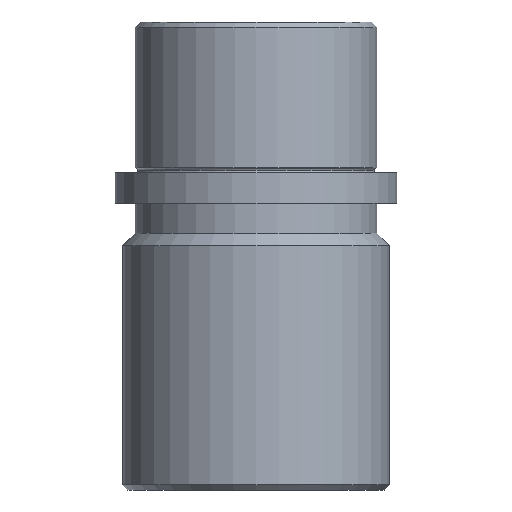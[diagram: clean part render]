
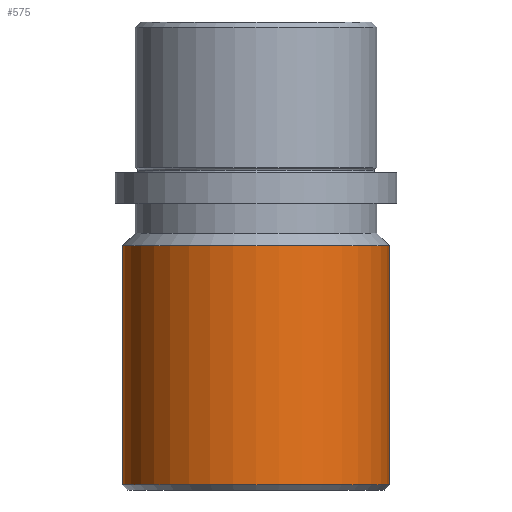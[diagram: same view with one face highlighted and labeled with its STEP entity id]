
A CAD part, front view. The second image highlights one B-rep face of the part: STEP entity #575.
In plain terms, the highlighted cylindrical face has radius 26.5 mm (diameter 53 mm), a partial arc.
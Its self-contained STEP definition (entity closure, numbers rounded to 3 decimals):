
#7 = CARTESIAN_POINT ( 'NONE',  ( -26.5, 0., 0. ) ) ;
#22 = EDGE_LOOP ( 'NONE', ( #551, #409, #929, #713 ) ) ;
#34 = VERTEX_POINT ( 'NONE', #498 ) ;
#69 = CARTESIAN_POINT ( 'NONE',  ( 26.5, 0., -92. ) ) ;
#93 = DIRECTION ( 'NONE',  ( 0., 0., 1. ) ) ;
#102 = CYLINDRICAL_SURFACE ( 'NONE', #114, 26.5 ) ;
#114 = AXIS2_PLACEMENT_3D ( 'NONE', #137, #187, #126 ) ;
#124 = LINE ( 'NONE', #7, #303 ) ;
#126 = DIRECTION ( 'NONE',  ( 1., 0., 0. ) ) ;
#137 = CARTESIAN_POINT ( 'NONE',  ( 0., 0., 0. ) ) ;
#153 = DIRECTION ( 'NONE',  ( 0., 0., 1. ) ) ;
#187 = DIRECTION ( 'NONE',  ( 0., 0., 1. ) ) ;
#198 = DIRECTION ( 'NONE',  ( 0., 0., 1. ) ) ;
#217 = LINE ( 'NONE', #235, #615 ) ;
#235 = CARTESIAN_POINT ( 'NONE',  ( 26.5, 0., 0. ) ) ;
#285 = DIRECTION ( 'NONE',  ( 1., 0., 0. ) ) ;
#286 = VERTEX_POINT ( 'NONE', #509 ) ;
#303 = VECTOR ( 'NONE', #153, 1000. ) ;
#360 = FACE_OUTER_BOUND ( 'NONE', #22, .T. ) ;
#397 = CARTESIAN_POINT ( 'NONE',  ( 0., 0., -92. ) ) ;
#409 = ORIENTED_EDGE ( 'NONE', *, *, #583, .T. ) ;
#465 = EDGE_CURVE ( 'NONE', #286, #34, #124, .T. ) ;
#498 = CARTESIAN_POINT ( 'NONE',  ( -26.5, 0., -44.5 ) ) ;
#502 = AXIS2_PLACEMENT_3D ( 'NONE', #691, #93, #862 ) ;
#509 = CARTESIAN_POINT ( 'NONE',  ( -26.5, 0., -92. ) ) ;
#546 = DIRECTION ( 'NONE',  ( 0., 0., 1. ) ) ;
#551 = ORIENTED_EDGE ( 'NONE', *, *, #465, .F. ) ;
#575 = ADVANCED_FACE ( 'NONE', ( #360 ), #102, .T. ) ;
#583 = EDGE_CURVE ( 'NONE', #286, #750, #1020, .T. ) ;
#615 = VECTOR ( 'NONE', #546, 1000. ) ;
#666 = CIRCLE ( 'NONE', #502, 26.5 ) ;
#691 = CARTESIAN_POINT ( 'NONE',  ( 0., 0., -44.5 ) ) ;
#699 = EDGE_CURVE ( 'NONE', #750, #765, #217, .T. ) ;
#713 = ORIENTED_EDGE ( 'NONE', *, *, #809, .F. ) ;
#750 = VERTEX_POINT ( 'NONE', #69 ) ;
#765 = VERTEX_POINT ( 'NONE', #1010 ) ;
#809 = EDGE_CURVE ( 'NONE', #34, #765, #666, .T. ) ;
#842 = AXIS2_PLACEMENT_3D ( 'NONE', #397, #198, #285 ) ;
#862 = DIRECTION ( 'NONE',  ( 1., 0., 0. ) ) ;
#929 = ORIENTED_EDGE ( 'NONE', *, *, #699, .T. ) ;
#1010 = CARTESIAN_POINT ( 'NONE',  ( 26.5, 0., -44.5 ) ) ;
#1020 = CIRCLE ( 'NONE', #842, 26.5 ) ;
